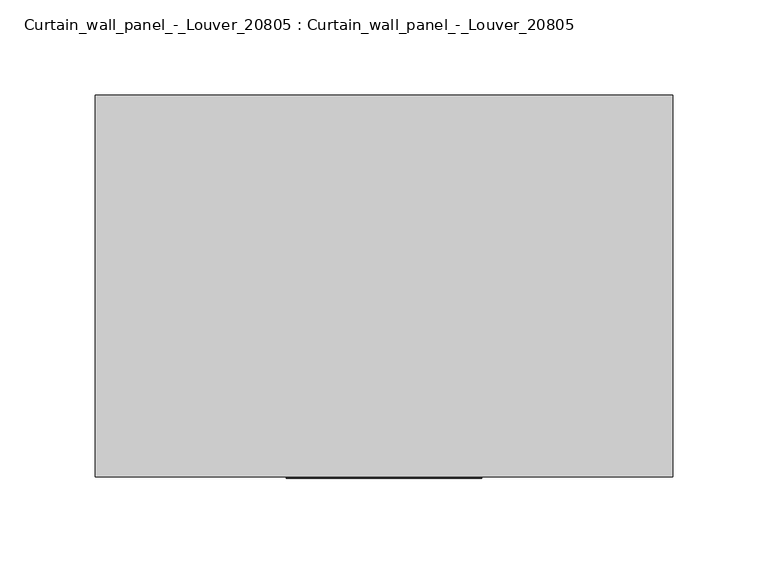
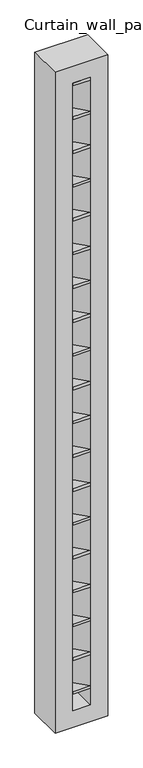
"""IFC4 building model written with IfcOpenShell, lengths in millimetres: plate geometry, Curtain_wall_panel_-_Louver_20805 : Curtain_wall_panel_-_Louver_20805."""

from ifc_helpers import new_model, si_unit, frame, origin, place, context, project, spatial, polyline, outline, extrude, source, transform, mapped, element, save


def curtain_wall_panel_louver_20805_curtain_wall_panel_louver_0f9f9e0f(model_context):
    return source(origin(), model_context, "Body", "SweptSolid", [
        extrude(outline(polyline([(-200.0, 3678.5908966), (-200.0, 3695.3408295), (0.0, 3595.9558314), (0.0, 3579.2058986), (-200.0, 3678.5908966)])), frame((-51.1425845, 0.0, 0.0), z_axis=(1.0, 0.0, 0.0), x_axis=(0.0, 1.0, 0.0)), (0.0, 0.0, 1.0), 102.285169),
        extrude(outline(polyline([(-200.0, 3473.9317261), (-200.0, 3490.681659), (0.0, 3391.2966609), (0.0, 3374.546728), (-200.0, 3473.9317261)])), frame((-51.1425845, 0.0, 0.0), z_axis=(1.0, 0.0, 0.0), x_axis=(0.0, 1.0, 0.0)), (0.0, 0.0, 1.0), 102.285169),
        extrude(outline(polyline([(-200.0, 3269.2725556), (-200.0, 3286.0224885), (0.0, 3186.6374904), (0.0, 3169.8875575), (-200.0, 3269.2725556)])), frame((-51.1425845, 0.0, 0.0), z_axis=(1.0, 0.0, 0.0), x_axis=(0.0, 1.0, 0.0)), (0.0, 0.0, 1.0), 102.285169),
        extrude(outline(polyline([(-200.0, 3064.6133851), (-200.0, 3081.363318), (0.0, 2981.9783199), (0.0, 2965.228387), (-200.0, 3064.6133851)])), frame((-51.1425845, 0.0, 0.0), z_axis=(1.0, 0.0, 0.0), x_axis=(0.0, 1.0, 0.0)), (0.0, 0.0, 1.0), 102.285169),
        extrude(outline(polyline([(-200.0, 2859.9542146), (-200.0, 2876.7041475), (0.0, 2777.3191494), (0.0, 2760.5692165), (-200.0, 2859.9542146)])), frame((-51.1425845, 0.0, 0.0), z_axis=(1.0, 0.0, 0.0), x_axis=(0.0, 1.0, 0.0)), (0.0, 0.0, 1.0), 102.285169),
        extrude(outline(polyline([(-200.0, 2655.2950441), (-200.0, 2672.044977), (0.0, 2572.6599789), (0.0, 2555.910046), (-200.0, 2655.2950441)])), frame((-51.1425845, 0.0, 0.0), z_axis=(1.0, 0.0, 0.0), x_axis=(0.0, 1.0, 0.0)), (0.0, 0.0, 1.0), 102.285169),
        extrude(outline(polyline([(-200.0, 2450.6358736), (-200.0, 2467.3858065), (0.0, 2368.0008084), (0.0, 2351.2508755), (-200.0, 2450.6358736)])), frame((-51.1425845, 0.0, 0.0), z_axis=(1.0, 0.0, 0.0), x_axis=(0.0, 1.0, 0.0)), (0.0, 0.0, 1.0), 102.285169),
        extrude(outline(polyline([(-200.0, 2245.9767031), (-200.0, 2262.726636), (0.0, 2163.3416379), (0.0, 2146.591705), (-200.0, 2245.9767031)])), frame((-51.1425845, 0.0, 0.0), z_axis=(1.0, 0.0, 0.0), x_axis=(0.0, 1.0, 0.0)), (0.0, 0.0, 1.0), 102.285169),
        extrude(outline(polyline([(-200.0, 2041.3175326), (-200.0, 2058.0674655), (0.0, 1958.6824674), (0.0, 1941.9325345), (-200.0, 2041.3175326)])), frame((-51.1425845, 0.0, 0.0), z_axis=(1.0, 0.0, 0.0), x_axis=(0.0, 1.0, 0.0)), (0.0, 0.0, 1.0), 102.285169),
        extrude(outline(polyline([(-200.0, 1836.6583621), (-200.0, 1853.408295), (0.0, 1754.0232969), (0.0, 1737.273364), (-200.0, 1836.6583621)])), frame((-51.1425845, 0.0, 0.0), z_axis=(1.0, 0.0, 0.0), x_axis=(0.0, 1.0, 0.0)), (0.0, 0.0, 1.0), 102.285169),
        extrude(outline(polyline([(-200.0, 1631.9991916), (-200.0, 1648.7491245), (0.0, 1549.3641264), (0.0, 1532.6141935), (-200.0, 1631.9991916)])), frame((-51.1425845, 0.0, 0.0), z_axis=(1.0, 0.0, 0.0), x_axis=(0.0, 1.0, 0.0)), (0.0, 0.0, 1.0), 102.285169),
        extrude(outline(polyline([(-200.0, 1427.3400211), (-200.0, 1444.089954), (0.0, 1344.7049559), (0.0, 1327.955023), (-200.0, 1427.3400211)])), frame((-51.1425845, 0.0, 0.0), z_axis=(1.0, 0.0, 0.0), x_axis=(0.0, 1.0, 0.0)), (0.0, 0.0, 1.0), 102.285169),
        extrude(outline(polyline([(-200.0, 1222.6808506), (-200.0, 1239.4307835), (0.0, 1140.0457854), (0.0, 1123.2958525), (-200.0, 1222.6808506)])), frame((-51.1425845, 0.0, 0.0), z_axis=(1.0, 0.0, 0.0), x_axis=(0.0, 1.0, 0.0)), (0.0, 0.0, 1.0), 102.285169),
        extrude(outline(polyline([(-200.0, 1018.0216801), (-200.0, 1034.771613), (0.0, 935.3866149), (0.0, 918.636682), (-200.0, 1018.0216801)])), frame((-51.1425845, 0.0, 0.0), z_axis=(1.0, 0.0, 0.0), x_axis=(0.0, 1.0, 0.0)), (0.0, 0.0, 1.0), 102.285169),
        extrude(outline(polyline([(-200.0, 813.3625096), (-200.0, 830.1124425), (0.0, 730.7274444), (0.0, 713.9775115), (-200.0, 813.3625096)])), frame((-51.1425845, 0.0, 0.0), z_axis=(1.0, 0.0, 0.0), x_axis=(0.0, 1.0, 0.0)), (0.0, 0.0, 1.0), 102.285169),
        extrude(outline(polyline([(-200.0, 608.7033391), (-200.0, 625.453272), (0.0, 526.0682739), (0.0, 509.318341), (-200.0, 608.7033391)])), frame((-51.1425845, 0.0, 0.0), z_axis=(1.0, 0.0, 0.0), x_axis=(0.0, 1.0, 0.0)), (0.0, 0.0, 1.0), 102.285169),
        extrude(outline(polyline([(-200.0, 404.0441686), (-200.0, 420.7941014), (0.0, 321.4091034), (0.0, 304.6591705), (-200.0, 404.0441686)])), frame((-51.1425845, 0.0, 0.0), z_axis=(1.0, 0.0, 0.0), x_axis=(0.0, 1.0, 0.0)), (0.0, 0.0, 1.0), 102.285169),
        extrude(outline(polyline([(-200.0, 3883.2500672), (-200.0, 3900.0), (0.0, 3800.6150019), (0.0, 3783.8650691), (-200.0, 3883.2500672)])), frame((-51.1425845, 0.0, 0.0), z_axis=(1.0, 0.0, 0.0), x_axis=(0.0, 1.0, 0.0)), (0.0, 0.0, 1.0), 102.285169),
        extrude(outline(polyline([(-200.0, 199.3849981), (-200.0, 216.1349309), (0.0, 116.7499328), (0.0, 100.0), (-200.0, 199.3849981)])), frame((-51.1425845, 0.0, 0.0), z_axis=(1.0, 0.0, 0.0), x_axis=(0.0, 1.0, 0.0)), (0.0, 0.0, 1.0), 102.285169),
        extrude(outline(polyline([(4000.0, -151.1425845), (0.0, -151.1425845), (0.0, 151.1425845), (4000.0, 151.1425845), (4000.0, -151.1425845)]), holes=[polyline([(3900.0, -51.1425845), (3900.0, 51.1425845), (100.0, 51.1425845), (100.0, -51.1425845), (3900.0, -51.1425845)])]), frame((0.0, -200.0, 0.0), z_axis=(0.0, 1.0, 0.0), x_axis=(0.0, 0.0, 1.0)), (0.0, 0.0, 1.0), 200.0),
    ])


if __name__ == "__main__":
    model = new_model("IFC4")
    model_context = context("Model", 3, world=origin())
    ifc_project = project(units=[si_unit("LENGTHUNIT", "METRE", prefix="MILLI")], contexts=[model_context])
    site = spatial("IfcSite", under=ifc_project)
    building = spatial("IfcBuilding", under=site)
    placement = place(None, origin())
    curtain_wall_panel_louver_20805_curtain_wall_panel_louver_shape = curtain_wall_panel_louver_20805_curtain_wall_panel_louver_0f9f9e0f(model_context)
    element("IfcPlate", 1, ObjectType="Curtain_wall_panel_-_Louver_20805 : Curtain_wall_panel_-_Louver_20805", at=placement, inside=building, context=model_context, shape_type="MappedRepresentation", body=[
        mapped(curtain_wall_panel_louver_20805_curtain_wall_panel_louver_shape, transform((0.0, 0.0, 0.0), x_axis=(1.0, 0.0, 0.0), y_axis=(0.0, 1.0, 0.0), z_axis=(0.0, 0.0, 1.0))),
    ])
    save(model, "model.ifc")
